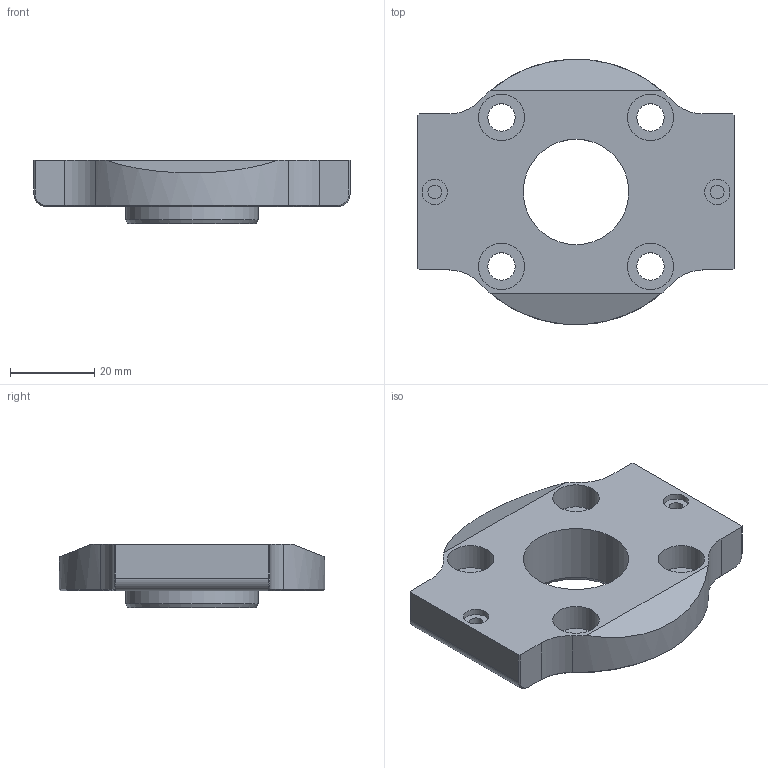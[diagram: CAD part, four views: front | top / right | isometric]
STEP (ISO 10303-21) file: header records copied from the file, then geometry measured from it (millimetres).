
FILE_DESCRIPTION((''),'2;1');
FILE_SCHEMA(('AUTOMOTIVE_DESIGN { 1 0 10303 214 1 1 1 1 }'));
Length unit declared in the file: millimetre
Products named in the file (1): FL-ISO50-RPG75 - CUSTOMER
Bounding box: 75 x 63 x 15 mm (x, y, z)
Volume: 32204.3 mm3; surface area: 11803.1 mm2
Topology: 1 solids, 1 shells, 492 faces, 1290 edges, 855 vertices
Faces by surface type: bspline 289, plane 175, cylinder 16, cone 12
Full cylindrical faces by diameter (mm): 25.011 x1, 31.5 x1
Entity records: 20563 total; most frequent: CARTESIAN_POINT 10270, ORIENTED_EDGE 2534, EDGE_CURVE 1267, DIRECTION 1233, VERTEX_POINT 852, VECTOR 665, LINE 665, EDGE_LOOP 577
